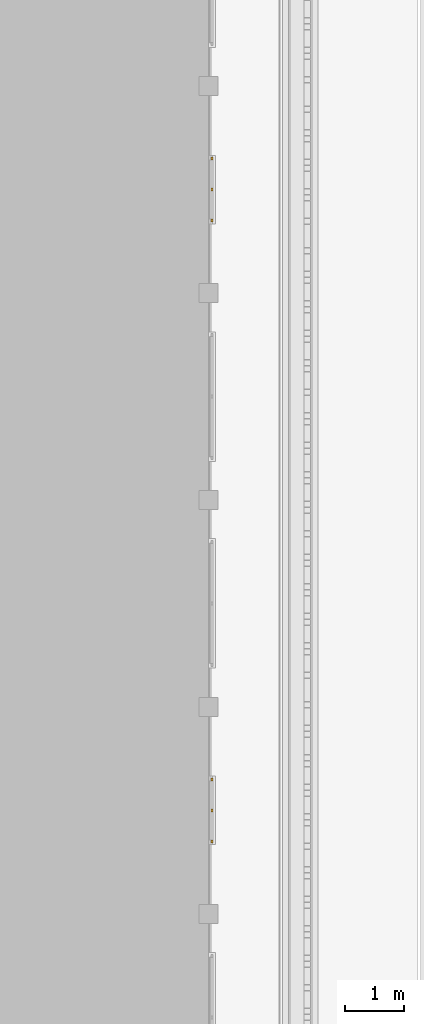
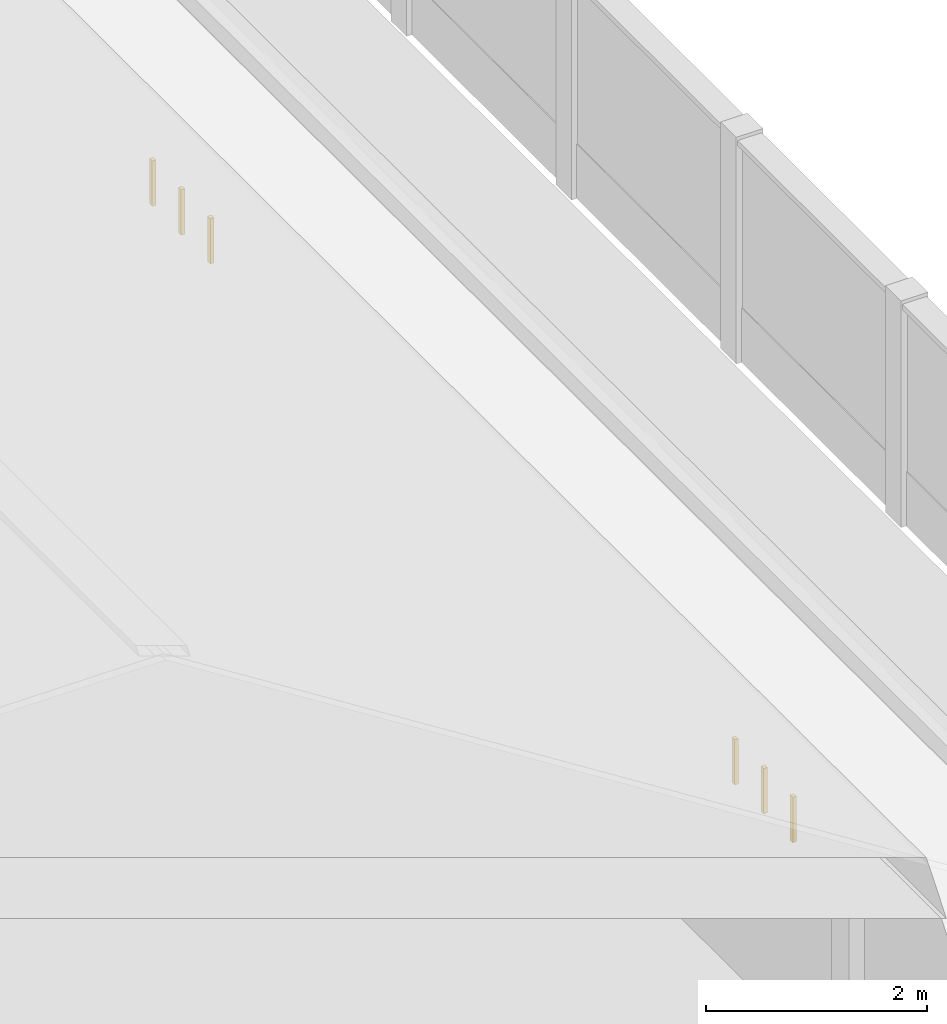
# One storey, part 85 of 151: 6 windows.
"""IFC2X3 building model written with IfcOpenShell, lengths in metres."""

from ifc_helpers import new_model, si_unit, origin, origin_with_axes, place, context, subcontext, project, spatial, faceted_brep, element, save


model = new_model("IFC2X3")

# Units and contexts
model_context = context("Model", 3, precision=1e-05, world=origin_with_axes())
body_context = subcontext(model_context, "Body", "Model", "MODEL_VIEW")
ifc_project = project(units=[si_unit("LENGTHUNIT", "METRE"), si_unit("AREAUNIT", "SQUARE_METRE"), si_unit("VOLUMEUNIT", "CUBIC_METRE"), si_unit("PLANEANGLEUNIT", "RADIAN")], contexts=[model_context])

# Site, building, storey
site_placement = place(None, origin_with_axes())
site = spatial("IfcSite", under=ifc_project, at=site_placement, Name="Predio Los Mangos - Morales, San Martín", CompositionType="ELEMENT")
building_placement = place(site_placement, origin())
building = spatial("IfcBuilding", under=site, at=building_placement, Name="Hogar de Refugio Temporal", CompositionType="ELEMENT")
storey_placement = place(building_placement, origin())
storey = spatial("IfcBuildingStorey", under=building, at=storey_placement, Name="NIVEL 1 (NPT +0.00)", CompositionType="ELEMENT", Elevation=0.0)

# Windows
window_1_placement = place(storey_placement, origin())
element("IfcWindow", 1, at=window_1_placement, inside=storey, Name="E-07_vt1_m", ObjectType="Ventana", context=body_context, shape_type="Brep", body=[
    faceted_brep([(66.54, 97.415, 2.45), (66.54, 97.465, 2.45), (66.58, 97.465, 2.45), (66.58, 97.415, 2.45), (66.54, 97.415, 2.95), (66.58, 97.415, 2.95), (66.58, 97.465, 2.95), (66.54, 97.465, 2.95)], [[[0, 1, 2, 3]], [[4, 5, 6, 7]], [[0, 3, 5, 4]], [[3, 2, 6, 5]], [[2, 1, 7, 6]], [[1, 0, 4, 7]]]),
])
window_2_placement = place(storey_placement, origin())
element("IfcWindow", 2, at=window_2_placement, inside=storey, Name="E-07_vt1_m", ObjectType="Ventana", context=body_context, shape_type="Brep", body=[
    faceted_brep([(66.54, 98.465, 2.45), (66.54, 98.515, 2.45), (66.58, 98.515, 2.45), (66.58, 98.465, 2.45), (66.54, 98.465, 2.95), (66.58, 98.465, 2.95), (66.58, 98.515, 2.95), (66.54, 98.515, 2.95)], [[[0, 1, 2, 3]], [[4, 5, 6, 7]], [[0, 3, 5, 4]], [[3, 2, 6, 5]], [[2, 1, 7, 6]], [[1, 0, 4, 7]]]),
])
window_3_placement = place(storey_placement, origin())
element("IfcWindow", 3, at=window_3_placement, inside=storey, Name="E-07_vt1_m", ObjectType="Ventana", context=body_context, shape_type="Brep", body=[
    faceted_brep([(66.54, 97.94, 2.45), (66.54, 97.99, 2.45), (66.58, 97.99, 2.45), (66.58, 97.94, 2.45), (66.54, 97.94, 2.95), (66.58, 97.94, 2.95), (66.58, 97.99, 2.95), (66.54, 97.99, 2.95)], [[[0, 1, 2, 3]], [[4, 5, 6, 7]], [[0, 3, 5, 4]], [[3, 2, 6, 5]], [[2, 1, 7, 6]], [[1, 0, 4, 7]]]),
])
window_4_placement = place(storey_placement, origin())
element("IfcWindow", 4, at=window_4_placement, inside=storey, Name="E-07_vt4_m", ObjectType="Ventana", context=body_context, shape_type="Brep", body=[
    faceted_brep([(66.54, 107.945, 2.45), (66.54, 107.995, 2.45), (66.58, 107.995, 2.45), (66.58, 107.945, 2.45), (66.54, 107.945, 2.95), (66.58, 107.945, 2.95), (66.58, 107.995, 2.95), (66.54, 107.995, 2.95)], [[[0, 1, 2, 3]], [[4, 5, 6, 7]], [[0, 3, 5, 4]], [[3, 2, 6, 5]], [[2, 1, 7, 6]], [[1, 0, 4, 7]]]),
])
window_5_placement = place(storey_placement, origin())
element("IfcWindow", 5, at=window_5_placement, inside=storey, Name="E-07_vt4_m", ObjectType="Ventana", context=body_context, shape_type="Brep", body=[
    faceted_brep([(66.54, 108.995, 2.45), (66.54, 109.045, 2.45), (66.58, 109.045, 2.45), (66.58, 108.995, 2.45), (66.54, 108.995, 2.95), (66.58, 108.995, 2.95), (66.58, 109.045, 2.95), (66.54, 109.045, 2.95)], [[[0, 1, 2, 3]], [[4, 5, 6, 7]], [[0, 3, 5, 4]], [[3, 2, 6, 5]], [[2, 1, 7, 6]], [[1, 0, 4, 7]]]),
])
window_6_placement = place(storey_placement, origin())
element("IfcWindow", 6, at=window_6_placement, inside=storey, Name="E-07_vt4_m", ObjectType="Ventana", context=body_context, shape_type="Brep", body=[
    faceted_brep([(66.54, 108.47, 2.45), (66.54, 108.52, 2.45), (66.58, 108.52, 2.45), (66.58, 108.47, 2.45), (66.54, 108.47, 2.95), (66.58, 108.47, 2.95), (66.58, 108.52, 2.95), (66.54, 108.52, 2.95)], [[[0, 1, 2, 3]], [[4, 5, 6, 7]], [[0, 3, 5, 4]], [[3, 2, 6, 5]], [[2, 1, 7, 6]], [[1, 0, 4, 7]]]),
])

save(model, "model.ifc")
